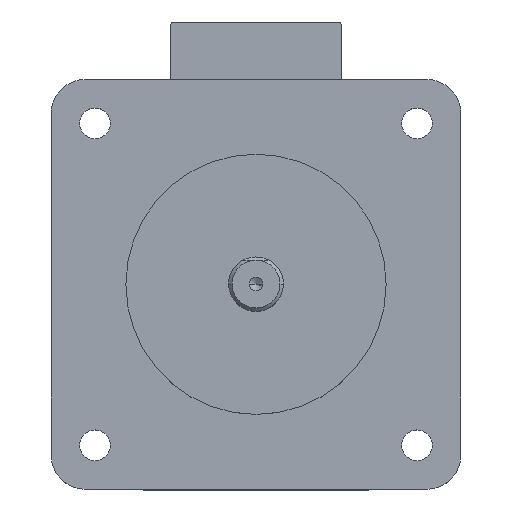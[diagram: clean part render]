
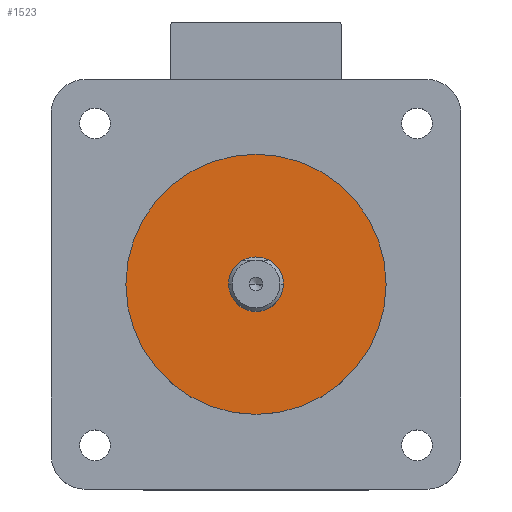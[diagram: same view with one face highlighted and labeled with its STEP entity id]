
A CAD part, top view. The second image highlights one B-rep face of the part: STEP entity #1523.
In plain terms, the highlighted planar face has unit normal (0, 0, 1).
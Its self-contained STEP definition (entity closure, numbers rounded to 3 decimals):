
#8 = CIRCLE ( 'NONE', #1486, 4. ) ;
#382 = AXIS2_PLACEMENT_3D ( 'NONE', #2209, #2207, #2199 ) ;
#529 = CARTESIAN_POINT ( 'NONE',  ( 4., 0., 2.5 ) ) ;
#744 = AXIS2_PLACEMENT_3D ( 'NONE', #2841, #816, #2808 ) ;
#816 = DIRECTION ( 'NONE',  ( 0., 0., 1. ) ) ;
#869 = CARTESIAN_POINT ( 'NONE',  ( -19.05, 0., 2.5 ) ) ;
#1238 = AXIS2_PLACEMENT_3D ( 'NONE', #1617, #1614, #1608 ) ;
#1328 = EDGE_CURVE ( 'NONE', #2681, #2274, #8, .T. ) ;
#1333 = EDGE_CURVE ( 'NONE', #2735, #3915, #3313, .T. ) ;
#1394 = AXIS2_PLACEMENT_3D ( 'NONE', #1832, #1828, #1823 ) ;
#1486 = AXIS2_PLACEMENT_3D ( 'NONE', #1891, #1885, #1883 ) ;
#1523 = ADVANCED_FACE ( 'NONE', ( #3812, #3135 ), #1635, .T. ) ;
#1608 = DIRECTION ( 'NONE',  ( 1., 0., 0. ) ) ;
#1614 = DIRECTION ( 'NONE',  ( 0., 0., 1. ) ) ;
#1617 = CARTESIAN_POINT ( 'NONE',  ( 0., 0., 2.5 ) ) ;
#1635 = PLANE ( 'NONE',  #1238 ) ;
#1823 = DIRECTION ( 'NONE',  ( 1., 0., 0. ) ) ;
#1828 = DIRECTION ( 'NONE',  ( 0., 0., 1. ) ) ;
#1832 = CARTESIAN_POINT ( 'NONE',  ( 0., 0., 2.5 ) ) ;
#1883 = DIRECTION ( 'NONE',  ( 1., 0., 0. ) ) ;
#1885 = DIRECTION ( 'NONE',  ( 0., 0., -1. ) ) ;
#1891 = CARTESIAN_POINT ( 'NONE',  ( 0., 0., 2.5 ) ) ;
#1912 = CARTESIAN_POINT ( 'NONE',  ( 19.05, 0., 2.5 ) ) ;
#2199 = DIRECTION ( 'NONE',  ( 1., 0., 0. ) ) ;
#2207 = DIRECTION ( 'NONE',  ( 0., 0., -1. ) ) ;
#2209 = CARTESIAN_POINT ( 'NONE',  ( 0., 0., 2.5 ) ) ;
#2269 = CIRCLE ( 'NONE', #382, 4. ) ;
#2274 = VERTEX_POINT ( 'NONE', #529 ) ;
#2581 = EDGE_CURVE ( 'NONE', #3915, #2735, #3979, .T. ) ;
#2681 = VERTEX_POINT ( 'NONE', #3029 ) ;
#2735 = VERTEX_POINT ( 'NONE', #869 ) ;
#2808 = DIRECTION ( 'NONE',  ( 1., 0., 0. ) ) ;
#2841 = CARTESIAN_POINT ( 'NONE',  ( 0., 0., 2.5 ) ) ;
#3029 = CARTESIAN_POINT ( 'NONE',  ( -4., 0., 2.5 ) ) ;
#3135 = FACE_BOUND ( 'NONE', #4036, .T. ) ;
#3155 = EDGE_CURVE ( 'NONE', #2274, #2681, #2269, .T. ) ;
#3313 = CIRCLE ( 'NONE', #1394, 19.05 ) ;
#3371 = ORIENTED_EDGE ( 'NONE', *, *, #1333, .T. ) ;
#3378 = ORIENTED_EDGE ( 'NONE', *, *, #2581, .T. ) ;
#3408 = ORIENTED_EDGE ( 'NONE', *, *, #1328, .T. ) ;
#3414 = ORIENTED_EDGE ( 'NONE', *, *, #3155, .T. ) ;
#3751 = EDGE_LOOP ( 'NONE', ( #3371, #3378 ) ) ;
#3812 = FACE_OUTER_BOUND ( 'NONE', #3751, .T. ) ;
#3915 = VERTEX_POINT ( 'NONE', #1912 ) ;
#3979 = CIRCLE ( 'NONE', #744, 19.05 ) ;
#4036 = EDGE_LOOP ( 'NONE', ( #3408, #3414 ) ) ;
